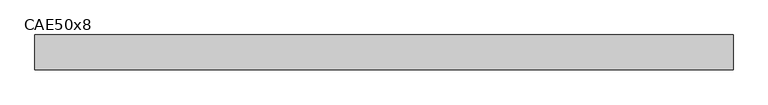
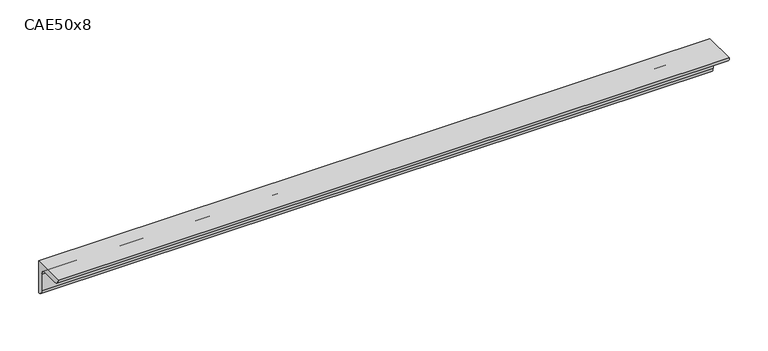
"""IFC4 building model written with IfcOpenShell, lengths in millimetres: beam geometry, L-Cornières : CAE50x8."""

from ifc_helpers import new_model, si_unit, point, frame, frame_2d, origin, place, context, project, spatial, polyline, circle_curve, trimmed, segment, composite_curve, outline, extrude, source, transform, mapped, element, save


def cae50x8_31034764(model_context):
    return source(origin(), model_context, "Body", "SweptSolid", [
        extrude(outline(composite_curve([segment(polyline([(15.2, 15.2), (15.2, -34.8)]), True, "CONTINUOUS"), segment(trimmed(circle_curve(frame_2d((15.2, -26.8)), 8.0), [point((15.2, -34.8))], [point((7.2, -26.8))], False, "CARTESIAN"), True, "CONTINUOUS"), segment(polyline([(7.2, -26.8), (7.2, -0.8)]), True, "CONTINUOUS"), segment(trimmed(circle_curve(frame_2d((-0.8, -0.8)), 8.0), [point((7.2, -0.8))], [point((-0.8, 7.2))], True, "CARTESIAN"), True, "CONTINUOUS"), segment(polyline([(-0.8, 7.2), (-26.8, 7.2)]), True, "CONTINUOUS"), segment(trimmed(circle_curve(frame_2d((-26.8, 15.2)), 8.0), [point((-26.8, 7.2))], [point((-34.8, 15.2))], False, "CARTESIAN"), True, "CONTINUOUS"), segment(polyline([(-34.8, 15.2), (15.2, 15.2)]), True, "CONTINUOUS")], self_intersect=False)), frame((-502.0, 0.0, 0.0), z_axis=(1.0, 0.0, 0.0), x_axis=(0.0, 1.0, 0.0)), (0.0, 0.0, 1.0), 1001.0),
    ])


if __name__ == "__main__":
    model = new_model("IFC4")
    model_context = context("Model", 3, world=origin())
    ifc_project = project(units=[si_unit("LENGTHUNIT", "METRE", prefix="MILLI")], contexts=[model_context])
    site = spatial("IfcSite", under=ifc_project)
    building = spatial("IfcBuilding", under=site)
    placement = place(None, origin())
    cae50x8_shape = cae50x8_31034764(model_context)
    element("IfcBeam", 1, ObjectType="L-Cornières : CAE50x8", at=placement, inside=building, context=model_context, shape_type="MappedRepresentation", body=[
        mapped(cae50x8_shape, transform((0.0, 0.0, 0.0), x_axis=(1.0, 0.0, 0.0), y_axis=(0.0, 1.0, 0.0), z_axis=(0.0, 0.0, 1.0))),
    ])
    save(model, "model.ifc")
